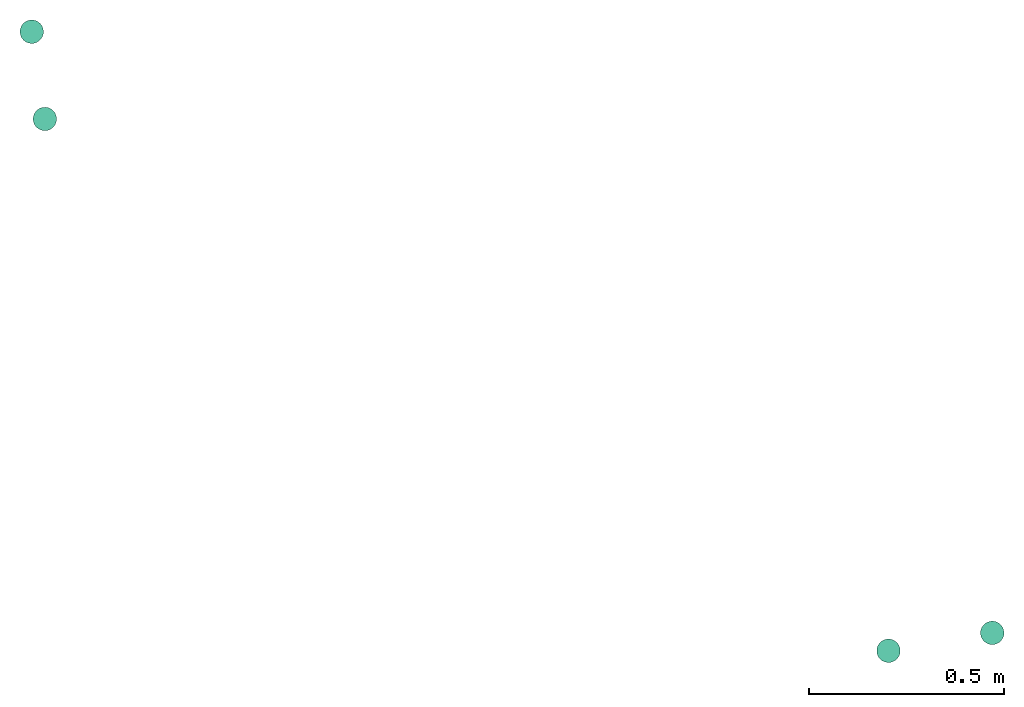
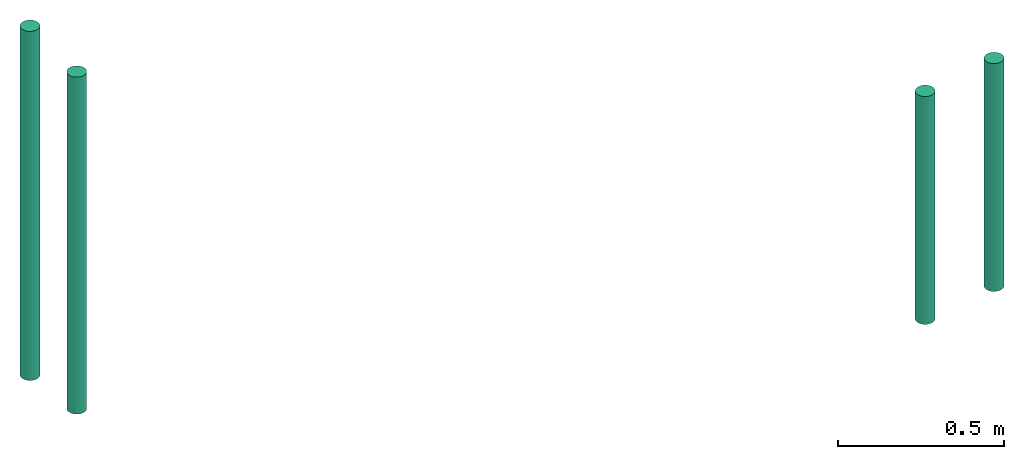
# One storey: 4 flow segments.
"""IFC2X3 building model written with IfcOpenShell, lengths in millimetres."""

from ifc_helpers import new_model, entity, si_unit, converted_unit, derived_unit, direction, frame, origin, origin_with_axes, origin_2d_with_axis, place, context, subcontext, project, spatial, circle, extrude, type_object, element, save


model = new_model("IFC2X3")

# Units and contexts
model_context = context("Model", 3, precision=0.01, world=origin(), true_north=direction((6.12323399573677e-17, 1.0)))
plan_context = context("Plan", 3, precision=1e-05, world=origin_with_axes())
body_context = subcontext(model_context, "Body", "Model", "MODEL_VIEW")
ifc_project = project(units=[converted_unit("PLANEANGLEUNIT", "DEGREE", entity("IfcPositiveLengthMeasure", 0.0174532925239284), si_unit("PLANEANGLEUNIT", "RADIAN"), dimensions=[0, 0, 0, 0, 0, 0, 0]), si_unit("AREAUNIT", "SQUARE_METRE"), si_unit("LENGTHUNIT", "METRE", prefix="MILLI"), si_unit("MASSUNIT", "GRAM", prefix="KILO"), si_unit("POWERUNIT", "WATT"), si_unit("PRESSUREUNIT", "PASCAL", prefix="KILO"), si_unit("FORCEUNIT", "NEWTON", prefix="KILO"), si_unit("ELECTRICVOLTAGEUNIT", "VOLT"), si_unit("ELECTRICCURRENTUNIT", "AMPERE"), si_unit("THERMODYNAMICTEMPERATUREUNIT", "DEGREE_CELSIUS"), si_unit("TIMEUNIT", "SECOND"), si_unit("VOLUMEUNIT", "CUBIC_METRE"), derived_unit("LINEARVELOCITYUNIT", [(si_unit("LENGTHUNIT", "METRE"), 1), (si_unit("TIMEUNIT", "SECOND"), -1)]), derived_unit("VOLUMETRICFLOWRATEUNIT", [(si_unit("VOLUMEUNIT", "CUBIC_METRE"), 1), (si_unit("TIMEUNIT", "SECOND"), -1)]), derived_unit("THERMALTRANSMITTANCEUNIT", [(si_unit("POWERUNIT", "WATT"), 1), (si_unit("THERMODYNAMICTEMPERATUREUNIT", "KELVIN"), -1), (si_unit("AREAUNIT", "SQUARE_METRE"), -1)]), derived_unit("SOUNDPRESSUREUNIT", [(si_unit("PRESSUREUNIT", "PASCAL"), 1)])], contexts=[model_context, plan_context])

# Site, building, storey
site_placement = place(None, frame((-0.00071070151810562, 0.00438415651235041, 0.0), z_axis=(0.0, 0.0, 1.0), x_axis=(-0.160236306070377, 0.987078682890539, 0.0)))
site = spatial("IfcSite", under=ifc_project, at=site_placement, Name="Default", CompositionType="ELEMENT")
building_placement = place(site_placement, origin_with_axes())
building = spatial("IfcBuilding", under=site, at=building_placement, CompositionType="ELEMENT")
storey_placement = place(building_placement, frame((0.0, 0.0, 48160.0), z_axis=(0.0, 0.0, 1.0), x_axis=(1.0, 0.0, 0.0)))
storey = spatial("IfcBuildingStorey", under=building, at=storey_placement, Name="Nivå C", CompositionType="ELEMENT", Elevation=48160.0)

# Flow segments
pipe_segment_type_1 = type_object("IfcPipeSegmentType", Name="Pipe Types:Stålrør normaltykke", PredefinedType="NOTDEFINED")
flow_segment_1_placement = place(storey_placement, origin_with_axes())
element("IfcFlowSegment", 1, at=flow_segment_1_placement, inside=storey, type_object=pipe_segment_type_1, Name="Pipe Types:Stålrør normaltykke", ObjectType="Pipe Types:Stålrør normaltykke", context=body_context, shape_type="SweptSolid", body=[
    extrude(circle(Radius=30.1499996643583, at=origin_2d_with_axis()), frame((775833.79933538, -596863.866410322, 1960.4)), (0.0, 0.0, 1.0), 838.0),
])
flow_segment_2_placement = place(storey_placement, origin_with_axes())
element("IfcFlowSegment", 2, at=flow_segment_2_placement, inside=storey, type_object=pipe_segment_type_1, Name="Pipe Types:Stålrør normaltykke", ObjectType="Pipe Types:Stålrør normaltykke", context=body_context, shape_type="SweptSolid", body=[
    extrude(circle(Radius=30.1499996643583, at=origin_2d_with_axis()), frame((775831.085841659, -596593.758663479, 1960.4)), (0.0, 0.0, 1.0), 838.000000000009),
])
pipe_segment_type_2 = type_object("IfcPipeSegmentType", Name="Pipe Types:Stålrør syrefast AISI 316", PredefinedType="NOTDEFINED")
flow_segment_3_placement = place(storey_placement, origin_with_axes())
element("IfcFlowSegment", 3, at=flow_segment_3_placement, inside=storey, type_object=pipe_segment_type_2, Name="Pipe Types:Stålrør syrefast AISI 316", ObjectType="Pipe Types:Stålrør syrefast AISI 316", context=body_context, shape_type="SweptSolid", body=[
    extrude(circle(Radius=30.1499996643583, at=origin_2d_with_axis()), frame((777524.586788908, -594676.080003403, 1560.39999999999)), (0.0, 0.0, 1.0), 1239.60000000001),
])
flow_segment_4_placement = place(storey_placement, origin_with_axes())
element("IfcFlowSegment", 4, at=flow_segment_4_placement, inside=storey, type_object=pipe_segment_type_2, Name="Pipe Types:Stålrør syrefast AISI 316", ObjectType="Pipe Types:Stålrør syrefast AISI 316", context=body_context, shape_type="SweptSolid", body=[
    extrude(circle(Radius=30.1499996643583, at=origin_2d_with_axis()), frame((777750.860958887, -594678.826649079, 1560.39999999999)), (0.0, 0.0, 1.0), 1284.00000000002),
])

save(model, "model.ifc")
